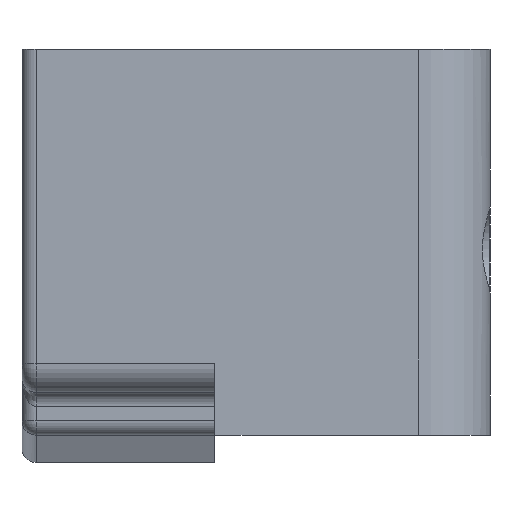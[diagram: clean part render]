
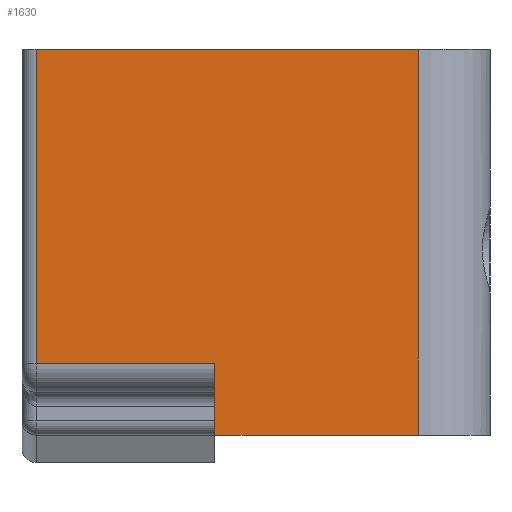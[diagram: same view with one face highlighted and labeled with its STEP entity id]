
A CAD part, left-side view. The second image highlights one B-rep face of the part: STEP entity #1630.
In plain terms, the highlighted planar face has unit normal (-1, 0, 0).
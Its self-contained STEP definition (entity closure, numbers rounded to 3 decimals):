
#13 = VERTEX_POINT ( 'NONE', #3523 ) ;
#82 = CARTESIAN_POINT ( 'NONE',  ( -33., 2.875, -8.5 ) ) ;
#83 = PLANE ( 'NONE',  #1669 ) ;
#117 = VECTOR ( 'NONE', #2934, 1000. ) ;
#260 = CARTESIAN_POINT ( 'NONE',  ( -33., 2.875, -13.5 ) ) ;
#336 = CARTESIAN_POINT ( 'NONE',  ( -33., 2.875, -8.5 ) ) ;
#356 = FACE_OUTER_BOUND ( 'NONE', #2954, .T. ) ;
#366 = EDGE_CURVE ( 'NONE', #3409, #13, #2298, .T. ) ;
#422 = ORIENTED_EDGE ( 'NONE', *, *, #2618, .T. ) ;
#618 = DIRECTION ( 'NONE',  ( 0., -1., 0. ) ) ;
#641 = DIRECTION ( 'NONE',  ( 0., 1., 0. ) ) ;
#737 = LINE ( 'NONE', #1499, #117 ) ;
#738 = ORIENTED_EDGE ( 'NONE', *, *, #366, .T. ) ;
#905 = CARTESIAN_POINT ( 'NONE',  ( -33., 15.375, 13.5 ) ) ;
#907 = EDGE_CURVE ( 'NONE', #2638, #3409, #3565, .T. ) ;
#1181 = CARTESIAN_POINT ( 'NONE',  ( -33., -16.375, 13.5 ) ) ;
#1192 = LINE ( 'NONE', #905, #3159 ) ;
#1299 = DIRECTION ( 'NONE',  ( 0., -1., 0. ) ) ;
#1365 = VECTOR ( 'NONE', #3306, 1000. ) ;
#1402 = DIRECTION ( 'NONE',  ( 1., 0., 0. ) ) ;
#1403 = VERTEX_POINT ( 'NONE', #2398 ) ;
#1499 = CARTESIAN_POINT ( 'NONE',  ( -33., -11.375, 13.5 ) ) ;
#1574 = CARTESIAN_POINT ( 'NONE',  ( -33., -16.375, 13.5 ) ) ;
#1600 = VERTEX_POINT ( 'NONE', #2253 ) ;
#1630 = ADVANCED_FACE ( 'NONE', ( #356 ), #83, .F. ) ;
#1669 = AXIS2_PLACEMENT_3D ( 'NONE', #1181, #1402, #641 ) ;
#1680 = EDGE_CURVE ( 'NONE', #13, #1403, #737, .T. ) ;
#1720 = DIRECTION ( 'NONE',  ( 0., 0., -1. ) ) ;
#1736 = CARTESIAN_POINT ( 'NONE',  ( -33., 15.375, 13.5 ) ) ;
#1819 = VECTOR ( 'NONE', #618, 1000. ) ;
#1923 = EDGE_CURVE ( 'NONE', #2831, #1403, #3244, .T. ) ;
#1986 = DIRECTION ( 'NONE',  ( 0., -1., 0. ) ) ;
#2007 = CARTESIAN_POINT ( 'NONE',  ( -33., -16.375, -13.5 ) ) ;
#2108 = ORIENTED_EDGE ( 'NONE', *, *, #3000, .T. ) ;
#2253 = CARTESIAN_POINT ( 'NONE',  ( -33., 15.375, -8.5 ) ) ;
#2298 = LINE ( 'NONE', #2007, #2519 ) ;
#2398 = CARTESIAN_POINT ( 'NONE',  ( -33., -11.375, 13.5 ) ) ;
#2519 = VECTOR ( 'NONE', #1986, 1000. ) ;
#2618 = EDGE_CURVE ( 'NONE', #1600, #2638, #3146, .T. ) ;
#2625 = ORIENTED_EDGE ( 'NONE', *, *, #1680, .T. ) ;
#2638 = VERTEX_POINT ( 'NONE', #336 ) ;
#2831 = VERTEX_POINT ( 'NONE', #1736 ) ;
#2934 = DIRECTION ( 'NONE',  ( 0., 0., 1. ) ) ;
#2954 = EDGE_LOOP ( 'NONE', ( #2980, #2108, #422, #3163, #738, #2625 ) ) ;
#2980 = ORIENTED_EDGE ( 'NONE', *, *, #1923, .F. ) ;
#3000 = EDGE_CURVE ( 'NONE', #2831, #1600, #1192, .T. ) ;
#3146 = LINE ( 'NONE', #82, #1819 ) ;
#3159 = VECTOR ( 'NONE', #1720, 1000. ) ;
#3163 = ORIENTED_EDGE ( 'NONE', *, *, #907, .T. ) ;
#3222 = CARTESIAN_POINT ( 'NONE',  ( -33., 2.875, -13.5 ) ) ;
#3244 = LINE ( 'NONE', #1574, #3477 ) ;
#3306 = DIRECTION ( 'NONE',  ( 0., 0., -1. ) ) ;
#3409 = VERTEX_POINT ( 'NONE', #3222 ) ;
#3477 = VECTOR ( 'NONE', #1299, 1000. ) ;
#3523 = CARTESIAN_POINT ( 'NONE',  ( -33., -11.375, -13.5 ) ) ;
#3565 = LINE ( 'NONE', #260, #1365 ) ;
